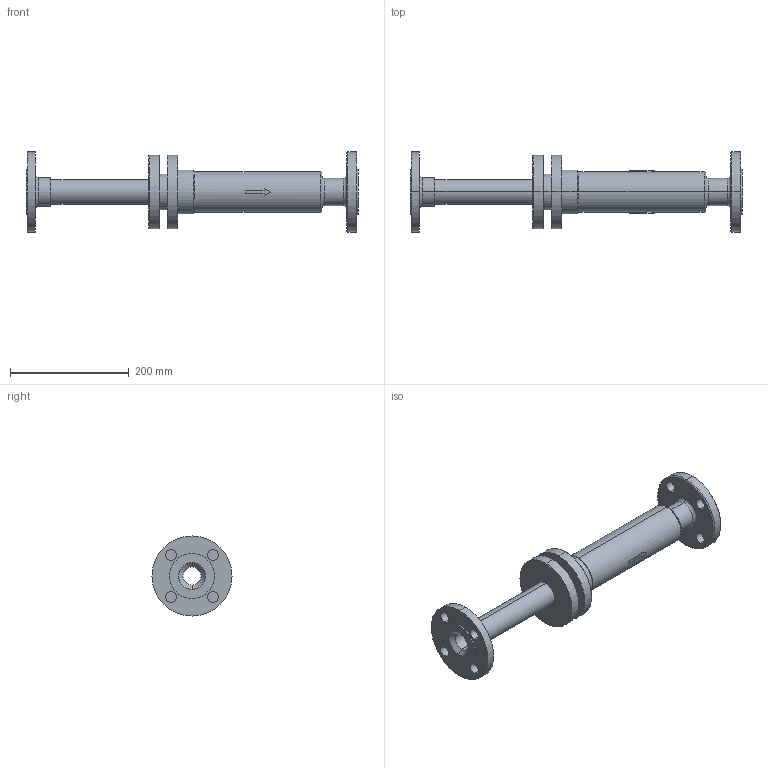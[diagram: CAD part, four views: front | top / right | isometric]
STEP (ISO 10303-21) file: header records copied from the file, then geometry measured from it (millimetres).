
FILE_DESCRIPTION( (''), '2;1');
FILE_NAME ('PC1027.9516.ES-10-200 32A_19044.stp','2025-07-30T13:58:55',(''),(''),'spGate 20.6.3 (****-****-****-****)','','');
FILE_SCHEMA (('AUTOMOTIVE_DESIGN'));
Length unit declared in the file: millimetre
Bounding box: 560 x 135 x 135 mm (x, y, z)
Volume: 1718055.6 mm3; surface area: 261954.8 mm2
Topology: 1 solids, 1 shells, 103 faces, 236 edges, 148 vertices
Faces by surface type: cylinder 42, bspline 32, plane 29
Entity records: 5227 total; most frequent: CARTESIAN_POINT 1087, ORIENTED_EDGE 472, DIRECTION 426, COLOUR_RGB 340, PRESENTATION_STYLE_ASSIGNMENT 340, STYLED_ITEM 340, EDGE_CURVE 236, DRAUGHTING_PRE_DEFINED_CURVE_FONT 236
